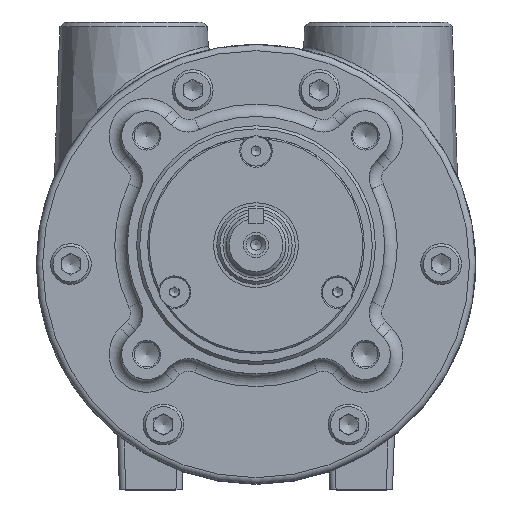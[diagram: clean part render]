
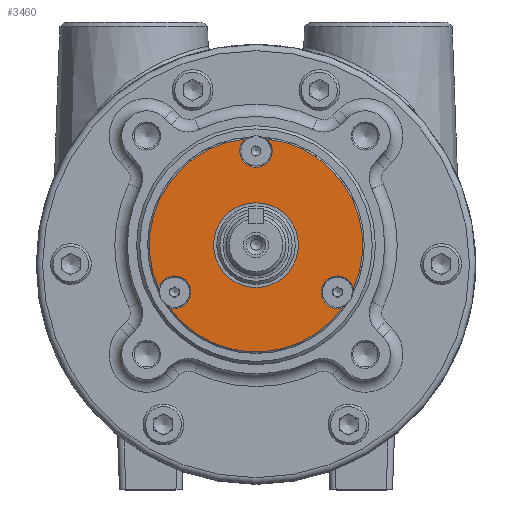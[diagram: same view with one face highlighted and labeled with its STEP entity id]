
A CAD part, top view. The second image highlights one B-rep face of the part: STEP entity #3460.
In plain terms, the highlighted planar face has unit normal (0, 0, 1).
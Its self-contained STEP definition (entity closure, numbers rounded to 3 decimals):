
#482 = FACE_OUTER_BOUND ( 'NONE', #20657, .T. ) ;
#784 = CIRCLE ( 'NONE', #3936, 34. ) ;
#1476 = DIRECTION ( 'NONE',  ( 1., 0., 0. ) ) ;
#1894 = CARTESIAN_POINT ( 'NONE',  ( -25.981, -9., 84.15 ) ) ;
#2699 = DIRECTION ( 'NONE',  ( 0., 0., 1. ) ) ;
#2780 = AXIS2_PLACEMENT_3D ( 'NONE', #23311, #14550, #19786 ) ;
#3174 = CIRCLE ( 'NONE', #2780, 34. ) ;
#3416 = ORIENTED_EDGE ( 'NONE', *, *, #6747, .F. ) ;
#3460 = ADVANCED_FACE ( 'NONE', ( #482, #22415 ), #7980, .F. ) ;
#3531 = VERTEX_POINT ( 'NONE', #17637 ) ;
#3934 = DIRECTION ( 'NONE',  ( 0., 0., -1. ) ) ;
#3936 = AXIS2_PLACEMENT_3D ( 'NONE', #13896, #23000, #22889 ) ;
#3970 = CIRCLE ( 'NONE', #14920, 13.5 ) ;
#3980 = VERTEX_POINT ( 'NONE', #7534 ) ;
#4070 = EDGE_CURVE ( 'NONE', #19635, #22194, #12522, .T. ) ;
#4156 = ORIENTED_EDGE ( 'NONE', *, *, #10219, .F. ) ;
#5029 = EDGE_LOOP ( 'NONE', ( #23699 ) ) ;
#5242 = ORIENTED_EDGE ( 'NONE', *, *, #4070, .F. ) ;
#5399 = DIRECTION ( 'NONE',  ( 1., 0., 0. ) ) ;
#5600 = DIRECTION ( 'NONE',  ( 1., 0., 0. ) ) ;
#5646 = DIRECTION ( 'NONE',  ( -1., 0., 0. ) ) ;
#6035 = VERTEX_POINT ( 'NONE', #20455 ) ;
#6747 = EDGE_CURVE ( 'NONE', #3531, #8823, #21229, .T. ) ;
#7534 = CARTESIAN_POINT ( 'NONE',  ( 13.5, 6., 84.15 ) ) ;
#7738 = AXIS2_PLACEMENT_3D ( 'NONE', #7846, #3934, #5646 ) ;
#7846 = CARTESIAN_POINT ( 'NONE',  ( 0., 19.5, 84.15 ) ) ;
#7960 = VERTEX_POINT ( 'NONE', #23943 ) ;
#7980 = PLANE ( 'NONE',  #7738 ) ;
#8823 = VERTEX_POINT ( 'NONE', #14178 ) ;
#9050 = ORIENTED_EDGE ( 'NONE', *, *, #22800, .F. ) ;
#10046 = DIRECTION ( 'NONE',  ( 0., 0., -1. ) ) ;
#10219 = EDGE_CURVE ( 'NONE', #7960, #19635, #16453, .T. ) ;
#10503 = EDGE_CURVE ( 'NONE', #8823, #7960, #784, .T. ) ;
#12522 = CIRCLE ( 'NONE', #14463, 34. ) ;
#12982 = AXIS2_PLACEMENT_3D ( 'NONE', #23752, #18273, #1476 ) ;
#13118 = EDGE_CURVE ( 'NONE', #3980, #3980, #3970, .T. ) ;
#13164 = CARTESIAN_POINT ( 'NONE',  ( 27.519, -13.967, 84.15 ) ) ;
#13526 = DIRECTION ( 'NONE',  ( 1., 0., 0. ) ) ;
#13588 = CARTESIAN_POINT ( 'NONE',  ( 0., 6., 84.15 ) ) ;
#13860 = DIRECTION ( 'NONE',  ( 0., 1., 0. ) ) ;
#13896 = CARTESIAN_POINT ( 'NONE',  ( 0., 6., 84.15 ) ) ;
#14145 = ORIENTED_EDGE ( 'NONE', *, *, #21799, .F. ) ;
#14178 = CARTESIAN_POINT ( 'NONE',  ( 3.532, 39.816, 84.15 ) ) ;
#14463 = AXIS2_PLACEMENT_3D ( 'NONE', #13588, #10046, #13860 ) ;
#14550 = DIRECTION ( 'NONE',  ( 0., 0., -1. ) ) ;
#14623 = AXIS2_PLACEMENT_3D ( 'NONE', #21066, #2699, #13526 ) ;
#14920 = AXIS2_PLACEMENT_3D ( 'NONE', #15574, #23003, #5399 ) ;
#15574 = CARTESIAN_POINT ( 'NONE',  ( 0., 6., 84.15 ) ) ;
#16453 = CIRCLE ( 'NONE', #12982, 5.2 ) ;
#17637 = CARTESIAN_POINT ( 'NONE',  ( -3.532, 39.816, 84.15 ) ) ;
#18273 = DIRECTION ( 'NONE',  ( 0., 0., 1. ) ) ;
#18461 = AXIS2_PLACEMENT_3D ( 'NONE', #1894, #24175, #5600 ) ;
#19635 = VERTEX_POINT ( 'NONE', #13164 ) ;
#19786 = DIRECTION ( 'NONE',  ( -1., 0., 0. ) ) ;
#20187 = ORIENTED_EDGE ( 'NONE', *, *, #10503, .F. ) ;
#20455 = CARTESIAN_POINT ( 'NONE',  ( -31.052, -7.849, 84.15 ) ) ;
#20657 = EDGE_LOOP ( 'NONE', ( #9050, #14145, #5242, #4156, #20187, #3416 ) ) ;
#21066 = CARTESIAN_POINT ( 'NONE',  ( 0., 36., 84.15 ) ) ;
#21229 = CIRCLE ( 'NONE', #14623, 5.2 ) ;
#21799 = EDGE_CURVE ( 'NONE', #22194, #6035, #23107, .T. ) ;
#22194 = VERTEX_POINT ( 'NONE', #22563 ) ;
#22415 = FACE_BOUND ( 'NONE', #5029, .T. ) ;
#22563 = CARTESIAN_POINT ( 'NONE',  ( -27.519, -13.967, 84.15 ) ) ;
#22800 = EDGE_CURVE ( 'NONE', #6035, #3531, #3174, .T. ) ;
#22889 = DIRECTION ( 'NONE',  ( -1., 0., 0. ) ) ;
#23000 = DIRECTION ( 'NONE',  ( 0., 0., -1. ) ) ;
#23003 = DIRECTION ( 'NONE',  ( 0., 0., 1. ) ) ;
#23107 = CIRCLE ( 'NONE', #18461, 5.2 ) ;
#23311 = CARTESIAN_POINT ( 'NONE',  ( 0., 6., 84.15 ) ) ;
#23699 = ORIENTED_EDGE ( 'NONE', *, *, #13118, .F. ) ;
#23752 = CARTESIAN_POINT ( 'NONE',  ( 25.981, -9., 84.15 ) ) ;
#23943 = CARTESIAN_POINT ( 'NONE',  ( 31.052, -7.849, 84.15 ) ) ;
#24175 = DIRECTION ( 'NONE',  ( 0., 0., 1. ) ) ;
